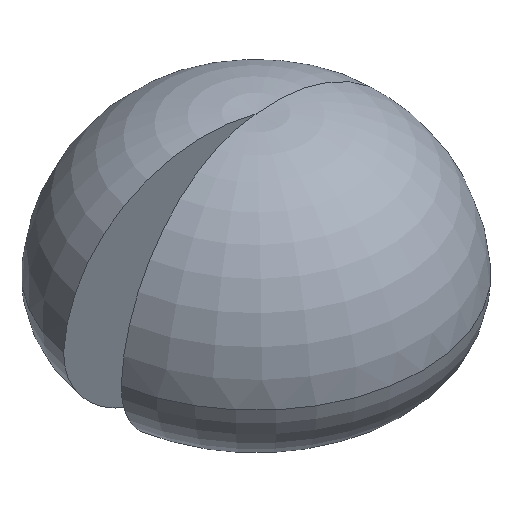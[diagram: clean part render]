
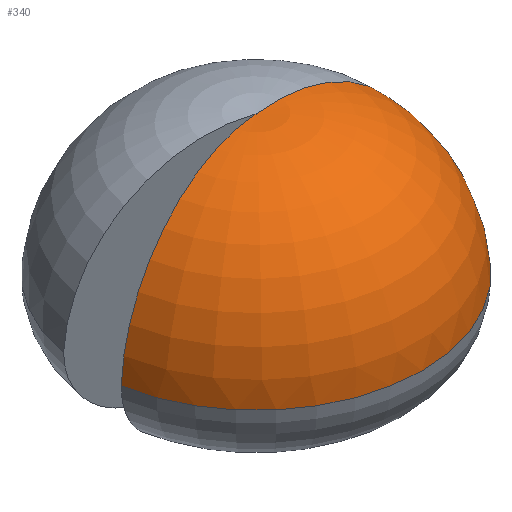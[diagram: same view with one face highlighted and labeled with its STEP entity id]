
A CAD part, isometric view. The second image highlights one B-rep face of the part: STEP entity #340.
In plain terms, the highlighted toroidal (fillet/blend) face has major radius 320 mm and minor radius 2476.49 mm.
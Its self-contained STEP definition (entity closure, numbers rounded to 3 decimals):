
#11 = DIRECTION ( 'NONE',  ( 0., 0., 1. ) ) ;
#12 = CARTESIAN_POINT ( 'NONE',  ( 0., 0., 780. ) ) ;
#17 = DIRECTION ( 'NONE',  ( 1., 0., 0. ) ) ;
#71 = DIRECTION ( 'NONE',  ( 0., -1., 0. ) ) ;
#72 = DIRECTION ( 'NONE',  ( 0., 0., -1. ) ) ;
#75 = CARTESIAN_POINT ( 'NONE',  ( 320., 0., 780. ) ) ;
#85 = CARTESIAN_POINT ( 'NONE',  ( -2751.553, -485.173, 891. ) ) ;
#86 = CARTESIAN_POINT ( 'NONE',  ( 0., 0., 3235.727 ) ) ;
#88 = CARTESIAN_POINT ( 'NONE',  ( 2794., 0., 891. ) ) ;
#115 = DIRECTION ( 'NONE',  ( 0.174, -0.985, 0. ) ) ;
#117 = CARTESIAN_POINT ( 'NONE',  ( 0., 0., 891. ) ) ;
#119 = DIRECTION ( 'NONE',  ( 0., 0., 1. ) ) ;
#120 = DIRECTION ( 'NONE',  ( 1., 0., 0. ) ) ;
#125 = DIRECTION ( 'NONE',  ( 0., 0., -1. ) ) ;
#126 = CARTESIAN_POINT ( 'NONE',  ( -315.138, -55.567, 780. ) ) ;
#153 = EDGE_LOOP ( 'NONE', ( #171, #212, #172 ) ) ;
#159 = CIRCLE ( 'NONE', #289, 2476.489 ) ;
#166 = VERTEX_POINT ( 'NONE', #85 ) ;
#171 = ORIENTED_EDGE ( 'NONE', *, *, #269, .T. ) ;
#172 = ORIENTED_EDGE ( 'NONE', *, *, #297, .T. ) ;
#181 = VERTEX_POINT ( 'NONE', #88 ) ;
#185 = TOROIDAL_SURFACE ( 'NONE', #275, 320., 2476.489 ) ;
#207 = VERTEX_POINT ( 'NONE', #86 ) ;
#212 = ORIENTED_EDGE ( 'NONE', *, *, #327, .T. ) ;
#219 = CIRCLE ( 'NONE', #294, 2794. ) ;
#233 = CIRCLE ( 'NONE', #283, 2476.489 ) ;
#245 = FACE_OUTER_BOUND ( 'NONE', #153, .T. ) ;
#269 = EDGE_CURVE ( 'NONE', #166, #181, #219, .T. ) ;
#275 = AXIS2_PLACEMENT_3D ( 'NONE', #12, #11, #17 ) ;
#283 = AXIS2_PLACEMENT_3D ( 'NONE', #75, #71, #72 ) ;
#289 = AXIS2_PLACEMENT_3D ( 'NONE', #126, #115, #125 ) ;
#294 = AXIS2_PLACEMENT_3D ( 'NONE', #117, #119, #120 ) ;
#297 = EDGE_CURVE ( 'NONE', #207, #166, #159, .T. ) ;
#327 = EDGE_CURVE ( 'NONE', #181, #207, #233, .T. ) ;
#340 = ADVANCED_FACE ( 'NONE', ( #245 ), #185, .T. ) ;
